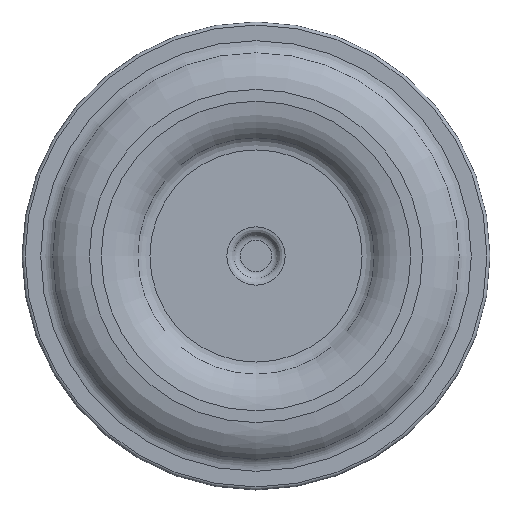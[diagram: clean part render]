
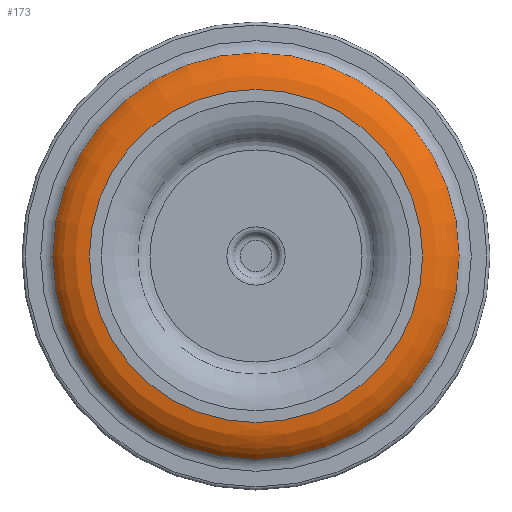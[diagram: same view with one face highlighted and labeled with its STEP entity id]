
A CAD part, left-side view. The second image highlights one B-rep face of the part: STEP entity #173.
In plain terms, the highlighted toroidal (fillet/blend) face has major radius 1.068 mm and minor radius 0.3 mm.
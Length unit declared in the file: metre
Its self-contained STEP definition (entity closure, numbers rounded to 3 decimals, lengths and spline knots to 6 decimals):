
#14=TOROIDAL_SURFACE('',#216,0.001068,0.0003);
#40=ORIENTED_EDGE('',*,*,#65,.F.);
#41=ORIENTED_EDGE('',*,*,#59,.F.);
#59=EDGE_CURVE('',#74,#74,#89,.T.);
#65=EDGE_CURVE('',#80,#80,#95,.T.);
#74=VERTEX_POINT('',#308);
#80=VERTEX_POINT('',#325);
#89=CIRCLE('',#204,0.001068);
#95=CIRCLE('',#215,0.001302);
#115=EDGE_LOOP('',(#40));
#116=EDGE_LOOP('',(#41));
#145=FACE_BOUND('',#115,.T.);
#146=FACE_BOUND('',#116,.T.);
#173=ADVANCED_FACE('',(#145,#146),#14,.T.);
#204=AXIS2_PLACEMENT_3D('',#307,#249,#250);
#215=AXIS2_PLACEMENT_3D('',#324,#271,#272);
#216=AXIS2_PLACEMENT_3D('',#326,#273,#274);
#249=DIRECTION('',(-1.,0.,0.));
#250=DIRECTION('',(0.,0.,-1.));
#271=DIRECTION('',(1.,0.,0.));
#272=DIRECTION('',(0.,0.,-1.));
#273=DIRECTION('',(1.,0.,0.));
#274=DIRECTION('',(0.,0.,1.));
#307=CARTESIAN_POINT('',(-0.1159,-0.03,-0.0083));
#308=CARTESIAN_POINT('',(-0.1159,-0.03,-0.009368));
#324=CARTESIAN_POINT('',(-0.115788,-0.03,-0.0083));
#325=CARTESIAN_POINT('',(-0.115788,-0.03,-0.009602));
#326=CARTESIAN_POINT('',(-0.1156,-0.03,-0.0083));
